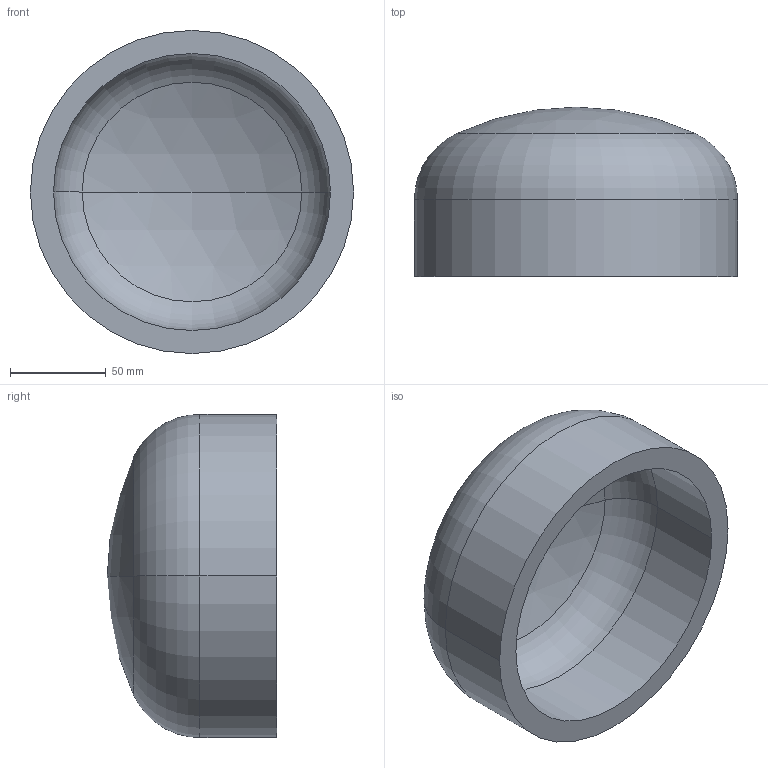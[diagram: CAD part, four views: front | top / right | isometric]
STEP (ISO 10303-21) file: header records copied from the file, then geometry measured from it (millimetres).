
FILE_DESCRIPTION (( 'STEP AP203' ), '1' );
FILE_NAME ('DIN 28013 Korbbogenform_-_Boden DIN 28013 - 168,3 x 40 - I - s=12.step', '2016-07-01T07:41:34', ( '' ), ( '' ), 'SwSTEP 2.0', 'SolidWorks 2013', '' );
FILE_SCHEMA (( 'CONFIG_CONTROL_DESIGN' ));
Length unit declared in the file: millimetre
Products named in the file (1): DIN 28013 Korbbogenform_-_Boden DIN 28013 - 168,3 x 40 - I - s=12
Bounding box: 168.3 x 88.25 x 168.3 mm (x, y, z)
Volume: 573757.7 mm3; surface area: 101820.2 mm2
Topology: 1 solids, 1 shells, 13 faces, 24 edges, 14 vertices
Faces by surface type: torus 4, cylinder 4, sphere 4, plane 1
Entity records: 407 total; most frequent: DIRECTION 72, CARTESIAN_POINT 52, ORIENTED_EDGE 48, AXIS2_PLACEMENT_3D 34, EDGE_CURVE 24, CIRCLE 20, EDGE_LOOP 14, VERTEX_POINT 14
